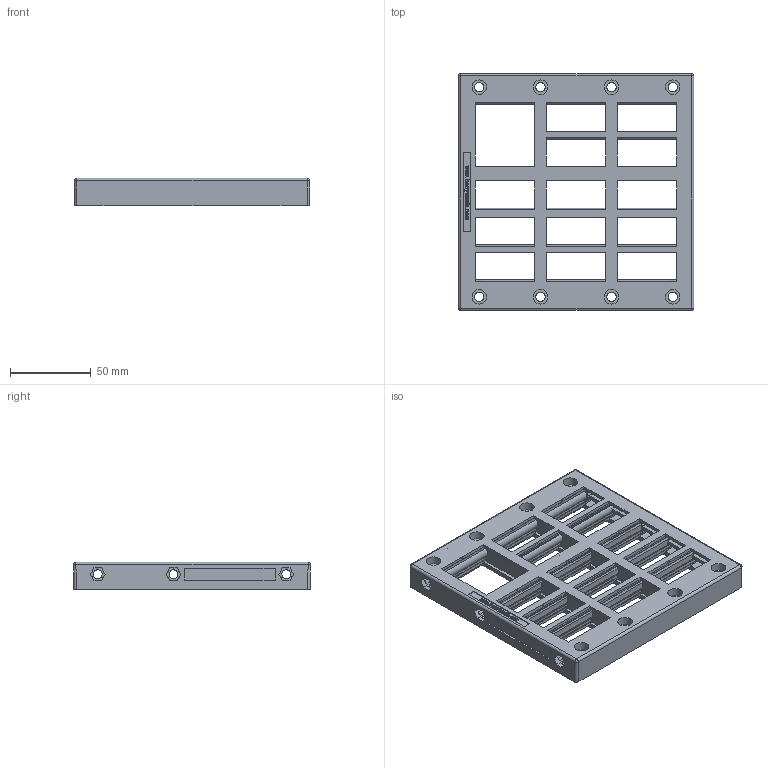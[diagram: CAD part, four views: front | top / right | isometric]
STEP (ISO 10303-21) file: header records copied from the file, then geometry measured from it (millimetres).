
FILE_DESCRIPTION(/* description */ (''),/* implementation_level */ '2;1');
FILE_NAME(/* name */ 'KEL 24-27-2MT.stp',/* time_stamp */ '2021-05-18T08:32:23+08:00',/* author */ (''),/* organization */ (''),/* preprocessor_version */ 'ST-DEVELOPER v16.7',/* originating_system */ 'SIEMENS PLM Software NX 12.0',/* authorisation */ '');
FILE_SCHEMA (('AP203_CONFIGURATION_CONTROLLED_3D_DESIGN_OF_MECHANICAL_PARTS_AND_ASSEMBLIES_MIM_LF { 1 0 10303 403 2 1 2}'));
Products named in the file (1): 91474E74F813a1cr
Bounding box: 146 x 147 x 17 mm (x, y, z)
Volume: 132617.5 mm3; surface area: 90455.3 mm2
Topology: 1 solids, 15 shells, 1669 faces, 4897 edges, 3283 vertices
Faces by surface type: plane 1060, cylinder 268, extrusion 137, cone 88, bspline 56, torus 32, sphere 28
Full cylindrical faces by diameter (mm): 3 x4, 5.5 x3, 5.8 x8, 9 x11
Entity records: 59428 total; most frequent: CARTESIAN_POINT 15896, ORIENTED_EDGE 9642, DIRECTION 8042, EDGE_CURVE 4821, VECTOR 3330, VERTEX_POINT 3267, LINE 3193, AXIS2_PLACEMENT_3D 2356
